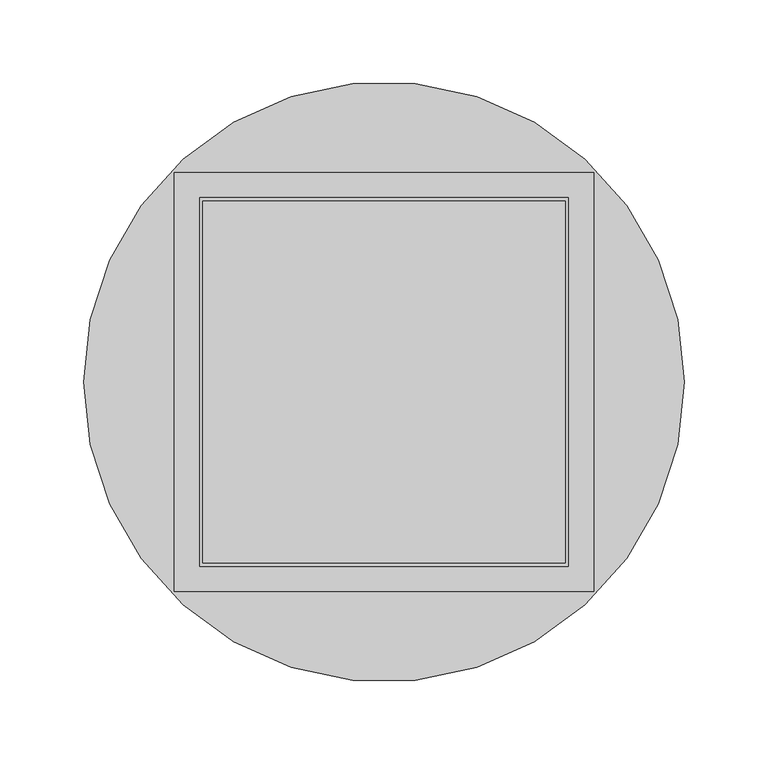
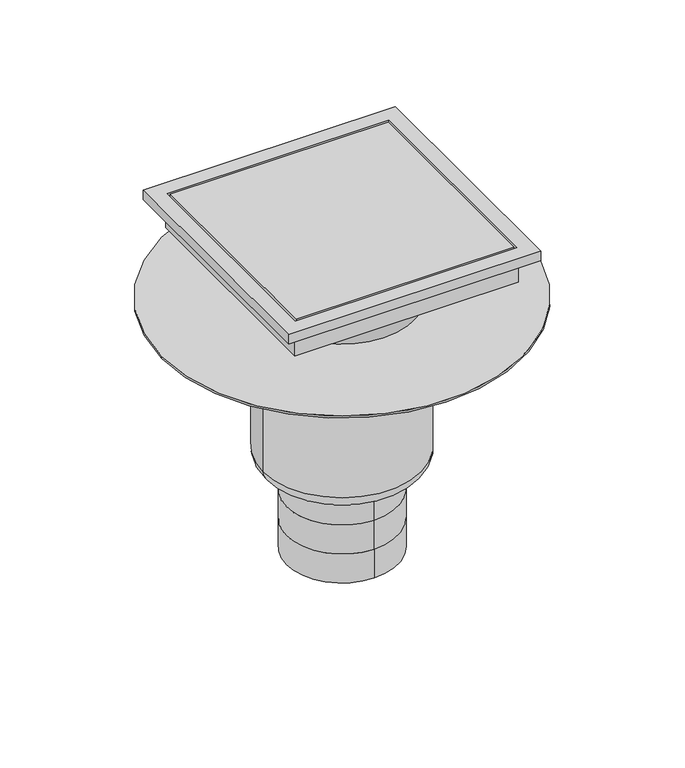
"""IFC4 building model written with IfcOpenShell, lengths in millimetres: sanitary terminal geometry, PF_ST_UN_Siphon telescopics epur hygiene first_ACO : 250 x 250 telescopic hygenic gully 157mm outlet DN110."""

from ifc_helpers import new_model, si_unit, point, frame, origin, origin_2d, place, context, project, spatial, polyline, circle_curve, ellipse_curve, trimmed, segment, composite_curve, outline, extrude, faceted_brep, source, transform, mapped, element, save
from ifc_brep_helpers import plane_surface, cylinder_surface, revolved_surface, advanced_brep


def sanitary_terminal_7c2a0655(model_context):
    return source(origin(), model_context, "Body", "SolidModel", [
        advanced_brep(
        [(0.0, -55.0, -462.0), (0.0, 55.0, -462.0), (0.0, -55.0, -431.6666667), (0.0, 55.0, -431.6666667), (0.0, -55.0, -401.3333333), (0.0, 55.0, -401.3333333), (0.0, 55.0, -371.0), (55.0, 0.0, -371.0), (0.0, -55.0, -371.0), (-55.0, 0.0, -371.0), (78.5, 0.0, -356.0), (-78.5, 0.0, -356.0), (-78.5, 0.0, -202.0), (78.5, 0.0, -202.0), (63.5, 0.0, -371.0), (-63.5, 0.0, -371.0), (-179.0, 0.0, -202.0), (179.0, 0.0, -202.0), (-179.0, 0.0, -200.0), (179.0, 0.0, -200.0)],
        [
            (0, 1, circle_curve(frame((0.0, 0.0, -462.0), z_axis=(0.0, 0.0, -1.0), x_axis=(0.0, 1.0, 0.0)), 55.0)),
            (1, 0, circle_curve(frame((0.0, 0.0, -462.0), z_axis=(0.0, 0.0, -1.0), x_axis=(0.0, 1.0, 0.0)), 55.0)),
            (0, 2),
            (2, 3, circle_curve(frame((0.0, 0.0, -431.6666667), z_axis=(0.0, 0.0, -1.0), x_axis=(0.0, 1.0, 0.0)), 55.0)),
            (3, 1),
            (3, 2, circle_curve(frame((0.0, 0.0, -431.6666667), z_axis=(0.0, 0.0, -1.0), x_axis=(0.0, 1.0, 0.0)), 55.0)),
            (4, 2),
            (3, 5),
            (5, 4, circle_curve(frame((0.0, 0.0, -401.3333333), z_axis=(0.0, 0.0, -1.0), x_axis=(1.0, 0.0, 0.0)), 55.0)),
            (4, 5, circle_curve(frame((0.0, 0.0, -401.3333333), z_axis=(0.0, 0.0, -1.0), x_axis=(-1.0, 0.0, 0.0)), 55.0)),
            (5, 6),
            (6, 7, circle_curve(frame((0.0, 0.0, -371.0), z_axis=(0.0, 0.0, -1.0), x_axis=(0.0, 1.0, 0.0)), 55.0)),
            (7, 8, circle_curve(frame((0.0, 0.0, -371.0), z_axis=(0.0, 0.0, -1.0), x_axis=(0.0, 1.0, 0.0)), 55.0)),
            (8, 4),
            (8, 9, circle_curve(frame((0.0, 0.0, -371.0), z_axis=(0.0, 0.0, -1.0), x_axis=(0.0, 1.0, 0.0)), 55.0)),
            (9, 6, circle_curve(frame((0.0, 0.0, -371.0), z_axis=(0.0, 0.0, -1.0), x_axis=(0.0, 1.0, 0.0)), 55.0)),
            (10, 11, circle_curve(frame((0.0, 0.0, -356.0), z_axis=(0.0, 0.0, 1.0), x_axis=(-1.0, 0.0, 0.0)), 78.5)),
            (11, 12),
            (12, 13, circle_curve(frame((0.0, 0.0, -202.0), z_axis=(0.0, 0.0, -1.0), x_axis=(-1.0, 0.0, 0.0)), 78.5)),
            (13, 10),
            (11, 10, circle_curve(frame((0.0, 0.0, -356.0), z_axis=(0.0, 0.0, 1.0), x_axis=(-1.0, 0.0, 0.0)), 78.5)),
            (13, 12, circle_curve(frame((0.0, 0.0, -202.0), z_axis=(0.0, 0.0, -1.0), x_axis=(-1.0, 0.0, 0.0)), 78.5)),
            (10, 14, circle_curve(frame((63.5, 0.0, -356.0), z_axis=(0.0, 1.0, 0.0), x_axis=(-1.0, 0.0, 0.0)), 15.0)),
            (14, 15, circle_curve(frame((0.0, 0.0, -371.0), z_axis=(0.0, 0.0, 1.0), x_axis=(-1.0, 0.0, 0.0)), 63.5)),
            (15, 11, circle_curve(frame((-63.5, 0.0, -356.0), z_axis=(0.0, 1.0, 0.0), x_axis=(1.0, 0.0, 0.0)), 15.0)),
            (15, 14, circle_curve(frame((0.0, 0.0, -371.0), z_axis=(0.0, 0.0, 1.0), x_axis=(-1.0, 0.0, 0.0)), 63.5)),
            (14, 7),
            (9, 15),
            (16, 17, circle_curve(frame((0.0, 0.0, -202.0), z_axis=(0.0, 0.0, -1.0), x_axis=(1.0, 0.0, 0.0)), 179.0)),
            (17, 16, circle_curve(frame((0.0, 0.0, -202.0), z_axis=(0.0, 0.0, -1.0), x_axis=(1.0, 0.0, 0.0)), 179.0)),
            (18, 19, circle_curve(frame((0.0, 0.0, -200.0), z_axis=(0.0, 0.0, 1.0), x_axis=(1.0, 0.0, 0.0)), 179.0)),
            (19, 18, circle_curve(frame((0.0, 0.0, -200.0), z_axis=(0.0, 0.0, 1.0), x_axis=(1.0, 0.0, 0.0)), 179.0)),
            (17, 19),
            (18, 16),
        ],
        [
            plane_surface(frame((0.0, 55.0, -462.0), z_axis=(0.0, 0.0, -1.0), x_axis=(1.0, 0.0, 0.0))),
            cylinder_surface(frame((0.0, 0.0, -431.6666667), z_axis=(0.0, 0.0, -1.0), x_axis=(0.0, 1.0, 0.0)), 55.0),
            cylinder_surface(frame((0.0, 0.0, -401.3333333), z_axis=(0.0, 0.0, -1.0), x_axis=(1.0, 0.0, 0.0)), 55.0),
            cylinder_surface(frame((0.0, 0.0, -401.3333333), z_axis=(0.0, 0.0, -1.0), x_axis=(-1.0, 0.0, 0.0)), 55.0),
            cylinder_surface(frame((0.0, 0.0, -371.0), z_axis=(0.0, 0.0, -1.0), x_axis=(0.0, 1.0, 0.0)), 55.0),
            cylinder_surface(frame((0.0, 0.0, -140.0), z_axis=(0.0, 0.0, -1.0), x_axis=(-1.0, 0.0, 0.0)), 78.5),
            revolved_surface(trimmed(ellipse_curve(frame((-63.5, 0.0, -356.0), z_axis=(0.0, -1.0, 0.0), x_axis=(1.0, 0.0, 0.0)), 15.0, 15.0), [point((-78.5, 0.0, -356.0))], [point((-63.5, 0.0, -371.0))], True, "CARTESIAN"), (0.0, 0.0, -140.0), (0.0, 0.0, -1.0)),
            plane_surface(frame((0.0, 0.0, -371.0), z_axis=(0.0, 0.0, -1.0), x_axis=(-1.0, 0.0, 0.0))),
            plane_surface(frame((179.0, 0.0, -202.0), z_axis=(0.0, 0.0, -1.0), x_axis=(0.0, -1.0, 0.0))),
            plane_surface(frame((179.0, 0.0, -200.0), z_axis=(0.0, 0.0, 1.0), x_axis=(0.0, 1.0, 0.0))),
            cylinder_surface(frame((0.0, 0.0, -202.0), z_axis=(0.0, 0.0, 1.0), x_axis=(1.0, 0.0, 0.0)), 179.0),
        ],
        [
            (0, [[1, 2]]),
            (1, [[-1, 3, 4, 5]]),
            (1, [[-2, -5, 6, -3]]),
            (2, [[7, -6, 8, 9]]),
            (3, [[-7, 10, -8, -4]]),
            (4, [[11, 12, 13, 14, -9]]),
            (4, [[-11, -10, -14, 15, 16]]),
            (5, [[17, 18, 19, 20]]),
            (5, [[-18, 21, -20, 22]]),
            (6, [[-17, 23, 24, 25]]),
            (6, [[-21, -25, 26, -23]]),
            (7, [[-24, 27, -12, -16, 28]]),
            (7, [[-26, -28, -15, -13, -27]]),
            (8, [[29, 30], [-19, -22]]),
            (9, [[31, 32]]),
            (10, [[-30, 33, -31, 34]]),
            (10, [[-29, -34, -32, -33]]),
        ],
    ),
        extrude(outline(composite_curve([segment(trimmed(circle_curve(origin_2d(), 71.5), [point((-71.5, 0.0))], [point((71.5, 0.0))], False, "CARTESIAN"), True, "CONTINUOUS"), segment(trimmed(circle_curve(origin_2d(), 71.5), [point((71.5, 0.0))], [point((-71.5, 0.0))], False, "CARTESIAN"), True, "CONTINUOUS")], self_intersect=False)), frame((0.0, 0.0, -215.0), z_axis=(0.0, 0.0, 1.0), x_axis=(1.0, 0.0, 0.0)), (0.0, 0.0, 1.0), 59.0),
        faceted_brep([(125.0, 125.0, -130.0), (125.0, 125.0, -120.0), (125.0, -125.0, -120.0), (125.0, -125.0, -130.0), (111.0, 111.0, -156.0), (111.0, 111.0, -130.0), (111.0, -111.0, -130.0), (111.0, -111.0, -156.0), (110.0, -110.0, -120.0), (110.0, 110.0, -120.0), (110.0, 110.0, -146.0), (110.0, -110.0, -146.0), (-125.0, -125.0, -120.0), (-125.0, -125.0, -130.0), (-111.0, -111.0, -130.0), (-111.0, -111.0, -156.0), (-110.0, -110.0, -120.0), (-110.0, -110.0, -146.0), (-125.0, 125.0, -120.0), (-125.0, 125.0, -130.0), (-111.0, 111.0, -130.0), (-111.0, 111.0, -156.0), (-110.0, 110.0, -120.0), (-110.0, 110.0, -146.0)], [[[0, 1, 2, 3]], [[4, 5, 6, 7]], [[8, 9, 10, 11]], [[3, 2, 12, 13]], [[7, 6, 14, 15]], [[16, 8, 11, 17]], [[13, 12, 18, 19]], [[15, 14, 20, 21]], [[22, 16, 17, 23]], [[2, 1, 18, 12], [9, 8, 16, 22]], [[1, 0, 19, 18]], [[0, 3, 13, 19], [6, 5, 20, 14]], [[5, 4, 21, 20]], [[4, 7, 15, 21]], [[9, 22, 23, 10]], [[11, 10, 23, 17]]]),
        extrude(outline(polyline([(108.0, 108.0), (108.0, -108.0), (-108.0, -108.0), (-108.0, 108.0), (108.0, 108.0)])), frame((0.0, 0.0, -146.0), z_axis=(0.0, 0.0, 1.0), x_axis=(1.0, 0.0, 0.0)), (0.0, 0.0, 1.0), 26.0),
    ])


if __name__ == "__main__":
    model = new_model("IFC4")
    model_context = context("Model", 3, world=origin())
    ifc_project = project(units=[si_unit("LENGTHUNIT", "METRE", prefix="MILLI")], contexts=[model_context])
    site = spatial("IfcSite", under=ifc_project)
    building = spatial("IfcBuilding", under=site)
    placement = place(None, origin())
    sanitary_terminal_shape = sanitary_terminal_7c2a0655(model_context)
    element("IfcSanitaryTerminal", 1, ObjectType="PF_ST_UN_Siphon telescopics epur hygiene first_ACO : 250 x 250 telescopic hygenic gully 157mm outlet DN110", at=placement, inside=building, context=model_context, shape_type="MappedRepresentation", body=[
        mapped(sanitary_terminal_shape, transform((0.0, 0.0, 0.0), x_axis=(1.0, 0.0, 0.0), y_axis=(0.0, 1.0, 0.0), z_axis=(0.0, 0.0, 1.0))),
    ])
    save(model, "model.ifc")
